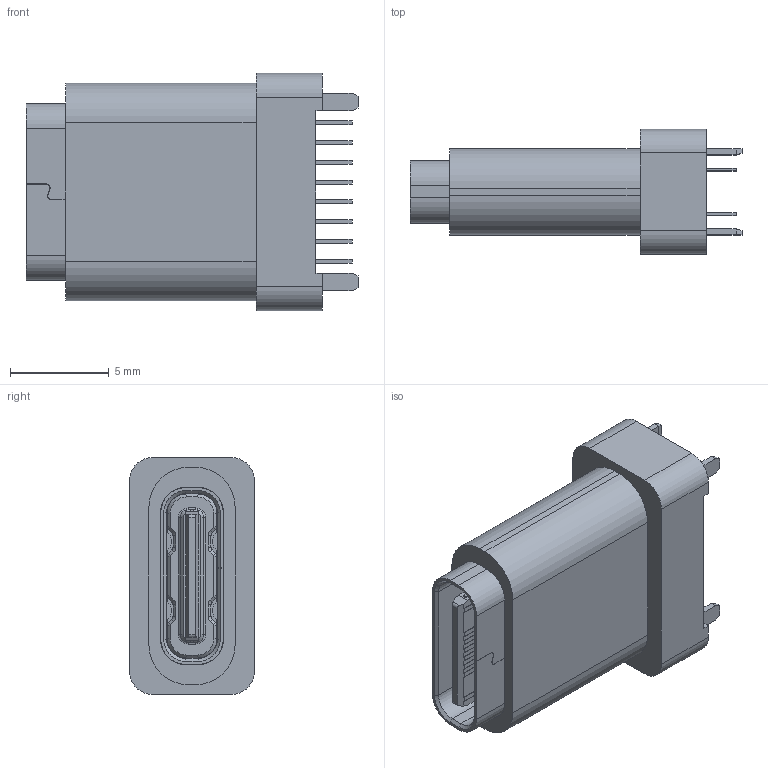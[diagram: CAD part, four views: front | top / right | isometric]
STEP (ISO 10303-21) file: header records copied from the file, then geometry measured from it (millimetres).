
FILE_DESCRIPTION (( 'STEP AP214' ), '1' );
FILE_NAME ('U5430-16PN2.0V15.0LF.STEP', '2026-07-31T03:00:06', ( '' ), ( '' ), 'SwSTEP 2.0', 'SolidWorks 2024', '' );
FILE_SCHEMA (( 'AUTOMOTIVE_DESIGN' ));
Length unit declared in the file: millimetre
Products named in the file (4): U5430-16PN2.0V15.0LF(2); ASM0001_ASM_1_ASM; U5430-16PN2.0V15.0LF; PRT0001
Assembly tree (3 placements, depth 4):
  U5430-16PN2.0V15.0LF
    U5430-16PN2.0V15.0LF(2)
      ASM0001_ASM_1_ASM
        PRT0001
Bounding box: 16.8 x 6.34 x 12 mm (x, y, z)
Volume: 471.4 mm3; surface area: 1467.4 mm2
Topology: 3 solids, 3 shells, 874 faces, 2431 edges, 1569 vertices
Faces by surface type: plane 634, cylinder 175, cone 36, bspline 25, torus 4
Entity records: 29264 total; most frequent: CARTESIAN_POINT 6721, ORIENTED_EDGE 4846, DIRECTION 4396, EDGE_CURVE 2423, LINE 1934, VECTOR 1934, VERTEX_POINT 1569, AXIS2_PLACEMENT_3D 1231
